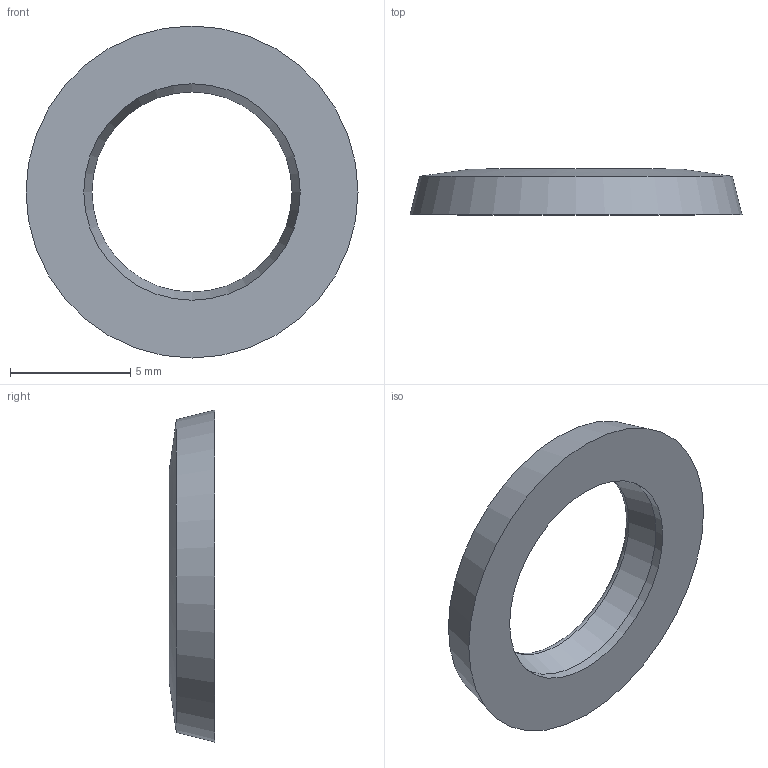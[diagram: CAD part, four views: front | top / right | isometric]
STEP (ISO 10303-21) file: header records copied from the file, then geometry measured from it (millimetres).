
FILE_DESCRIPTION( ( 'STEP AP203' ), '1' );
FILE_NAME( 'C:/Temp/Ganter_Step_05_03_2020/data/3_5/gn7600/Sealing ring GN 7600-13-9-2-EPDM-85.stp', '2020-03-12T13:43:53', ( 'License CC BY-ND 4.0' ), ( 'CADENAS' ), ' ', 'PARTsolutions', ' ' );
FILE_SCHEMA( ( 'CONFIG_CONTROL_DESIGN' ) );
Length unit declared in the file: millimetre
Products named in the file (1): _Sealing ring GN 7600-13-9-2-EPDM-85
Bounding box: 13.8 x 1.9 x 13.8 mm (x, y, z)
Volume: 140.9 mm3; surface area: 285.4 mm2
Topology: 1 solids, 1 shells, 6 faces, 11 edges, 6 vertices
Faces by surface type: cone 3, torus 1, cylinder 1, plane 1
Full cylindrical faces by diameter (mm): 9 x1
Entity records: 172 total; most frequent: DIRECTION 26, CARTESIAN_POINT 19, AXIS2_PLACEMENT_3D 13, EDGE_LOOP 12, ORIENTED_EDGE 12, FACE_OUTER_BOUND 8, ADVANCED_FACE 6, EDGE_CURVE 6
